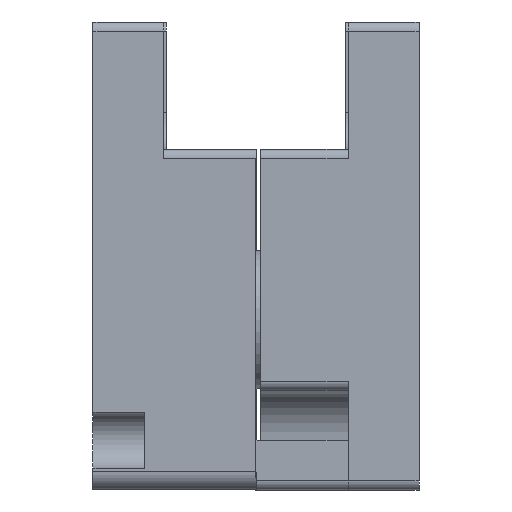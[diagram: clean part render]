
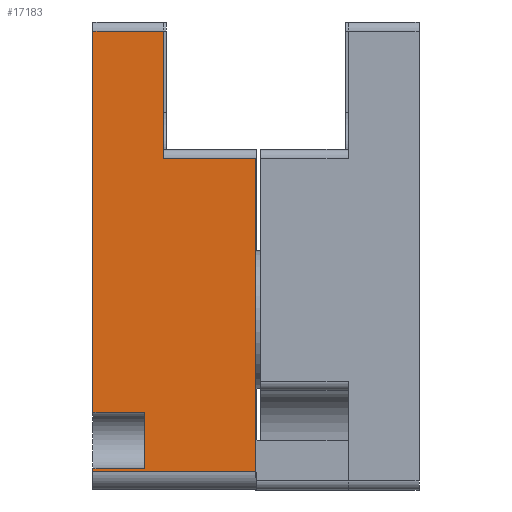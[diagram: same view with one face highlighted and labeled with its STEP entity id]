
A CAD part, left-side view. The second image highlights one B-rep face of the part: STEP entity #17183.
In plain terms, the highlighted planar face has unit normal (-1, 0, 0).
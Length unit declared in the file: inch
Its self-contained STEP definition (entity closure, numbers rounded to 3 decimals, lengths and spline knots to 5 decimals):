
#1617=PLANE('',#18040);
#2302=FACE_OUTER_BOUND('',#3260,.T.);
#3260=EDGE_LOOP('',(#13737,#13738,#13739,#13740,#13741,#13742,#13743,#13744,
#13745,#13746));
#3834=LINE('',#21448,#5382);
#4107=LINE('',#23732,#5655);
#4111=LINE('',#23741,#5659);
#4112=LINE('',#23750,#5660);
#4114=LINE('',#23756,#5662);
#4594=LINE('',#27674,#6142);
#4595=LINE('',#27677,#6143);
#4598=LINE('',#27685,#6146);
#4599=LINE('',#27686,#6147);
#4600=LINE('',#27687,#6148);
#5382=VECTOR('',#18453,0.3937);
#5655=VECTOR('',#19110,0.3937);
#5659=VECTOR('',#19118,0.3937);
#5660=VECTOR('',#19129,0.3937);
#5662=VECTOR('',#19135,0.3937);
#6142=VECTOR('',#19925,0.3937);
#6143=VECTOR('',#19928,0.3937);
#6146=VECTOR('',#19937,0.3937);
#6147=VECTOR('',#19938,0.3937);
#6148=VECTOR('',#19939,0.3937);
#7132=VERTEX_POINT('',#21445);
#7133=VERTEX_POINT('',#21447);
#7632=VERTEX_POINT('',#23731);
#7634=VERTEX_POINT('',#23738);
#7635=VERTEX_POINT('',#23740);
#7638=VERTEX_POINT('',#23748);
#7640=VERTEX_POINT('',#23753);
#7983=VERTEX_POINT('',#27672);
#7984=VERTEX_POINT('',#27676);
#7986=VERTEX_POINT('',#27684);
#8868=EDGE_CURVE('',#7133,#7132,#3834,.T.);
#9458=EDGE_CURVE('',#7632,#7133,#4107,.T.);
#9463=EDGE_CURVE('',#7634,#7635,#4111,.T.);
#9468=EDGE_CURVE('',#7635,#7638,#4112,.T.);
#9471=EDGE_CURVE('',#7640,#7638,#4114,.T.);
#10156=EDGE_CURVE('',#7983,#7634,#4594,.T.);
#10157=EDGE_CURVE('',#7984,#7632,#4595,.T.);
#10161=EDGE_CURVE('',#7640,#7986,#4598,.T.);
#10162=EDGE_CURVE('',#7983,#7984,#4599,.T.);
#10163=EDGE_CURVE('',#7132,#7986,#4600,.T.);
#13737=ORIENTED_EDGE('',*,*,#10161,.F.);
#13738=ORIENTED_EDGE('',*,*,#9471,.T.);
#13739=ORIENTED_EDGE('',*,*,#9468,.F.);
#13740=ORIENTED_EDGE('',*,*,#9463,.F.);
#13741=ORIENTED_EDGE('',*,*,#10156,.F.);
#13742=ORIENTED_EDGE('',*,*,#10162,.T.);
#13743=ORIENTED_EDGE('',*,*,#10157,.T.);
#13744=ORIENTED_EDGE('',*,*,#9458,.T.);
#13745=ORIENTED_EDGE('',*,*,#8868,.T.);
#13746=ORIENTED_EDGE('',*,*,#10163,.T.);
#17183=ADVANCED_FACE('',(#2302),#1617,.T.);
#18040=AXIS2_PLACEMENT_3D('',#27683,#19935,#19936);
#18453=DIRECTION('',(0.,1.,0.));
#19110=DIRECTION('',(0.,0.,-1.));
#19118=DIRECTION('',(0.,0.,-1.));
#19129=DIRECTION('',(0.,-1.,0.));
#19135=DIRECTION('',(0.,0.,1.));
#19925=DIRECTION('',(0.,-1.,0.));
#19928=DIRECTION('',(0.,-1.,0.));
#19935=DIRECTION('center_axis',(-1.,0.,0.));
#19936=DIRECTION('ref_axis',(0.,0.,
-1.));
#19937=DIRECTION('',(0.,1.,0.));
#19938=DIRECTION('',(0.,0.,-1.));
#19939=DIRECTION('',(0.,0.,-1.));
#21445=CARTESIAN_POINT('',(-0.59649,0.69675,-2.19614));
#21447=CARTESIAN_POINT('',(-0.59649,0.47549,-2.19614));
#21448=CARTESIAN_POINT('',(-0.59649,0.69675,-2.19614));
#23731=CARTESIAN_POINT('',(-0.59649,0.47549,-1.9548));
#23732=CARTESIAN_POINT('',(-0.59649,0.47549,-1.18172));
#23738=CARTESIAN_POINT('',(-0.59649,0.3937,-0.32734));
#23740=CARTESIAN_POINT('',(-0.59649,0.3937,-0.87134));
#23741=CARTESIAN_POINT('',(-0.59649,0.3937,-0.28797));
#23748=CARTESIAN_POINT('',(-0.59649,0.,-0.87134));
#23750=CARTESIAN_POINT('',(-0.59649,0.54523,-0.87134));
#23753=CARTESIAN_POINT('',(-0.59649,0.,-2.20897));
#23756=CARTESIAN_POINT('',(-0.59649,0.,-1.19597));
#27672=CARTESIAN_POINT('',(-0.59649,0.69675,-0.32734));
#27674=CARTESIAN_POINT('',(-0.59649,0.69675,-0.32734));
#27676=CARTESIAN_POINT('',(-0.59649,0.69675,-1.9548));
#27677=CARTESIAN_POINT('',(-0.59649,0.69675,-1.9548));
#27683=CARTESIAN_POINT('Origin',(-0.59649,0.69675,-0.28797));
#27684=CARTESIAN_POINT('',(-0.59649,0.69675,-2.20897));
#27685=CARTESIAN_POINT('',(-0.59649,0.69675,-2.20897));
#27686=CARTESIAN_POINT('',(-0.59649,0.69675,-0.28797));
#27687=CARTESIAN_POINT('',(-0.59649,0.69675,-0.28797));
